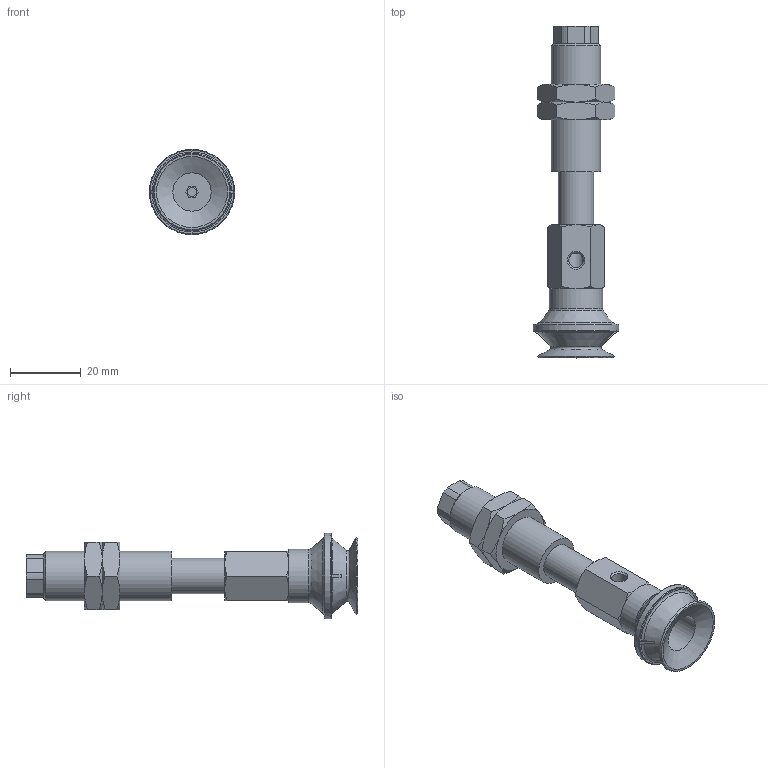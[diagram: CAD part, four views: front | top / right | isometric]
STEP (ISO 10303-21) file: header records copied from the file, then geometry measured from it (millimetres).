
FILE_DESCRIPTION(('STEP AP203'),'1');
FILE_NAME('.stp','2025-04-02T00:31:51',(' '),(' '),'Spatial InterOp 3D',' ',' ');
FILE_SCHEMA(('CONFIG_CONTROL_DESIGN'));
Length unit declared in the file: millimetre
Products named in the file (7): BNABPBYS-20-15-※; Adapter20-T-NAPB; CONNECTOR-20-15-PB; Nut-20-S-PB; NAPBTS-20-15--F; NAPBTS-20-15--M; BPBG-20-※
Assembly tree (7 placements, depth 2):
  BNABPBYS-20-15-※
    Adapter20-T-NAPB
    CONNECTOR-20-15-PB
    Nut-20-S-PB  x2
    NAPBTS-20-15--F
    NAPBTS-20-15--M
    BPBG-20-※
Bounding box: 24 x 93.5 x 24 mm (x, y, z)
Volume: 15070.7 mm3; surface area: 11507.3 mm2
Topology: 7 solids, 7 shells, 155 faces, 340 edges, 208 vertices
Faces by surface type: plane 67, cone 56, cylinder 23, torus 9
Full cylindrical faces by diameter (mm): 2.5 x1, 3 x1, 4.134 x3, 4.6 x1, 5 x2, 10 x2, 10.8 x1, 11 x1, 12.917 x2, 14 x1, 15 x1, 24 x1
Entity records: 3984 total; most frequent: CARTESIAN_POINT 922, DIRECTION 580, ORIENTED_EDGE 490, AXIS2_PLACEMENT_3D 247, EDGE_CURVE 245, EDGE_LOOP 190, VERTEX_POINT 171, FACE_OUTER_BOUND 155
